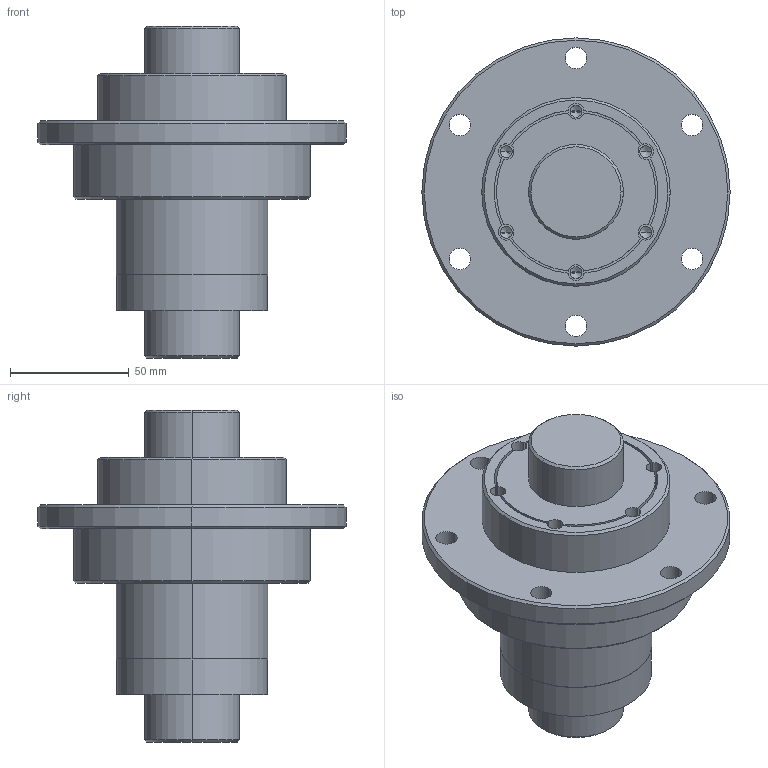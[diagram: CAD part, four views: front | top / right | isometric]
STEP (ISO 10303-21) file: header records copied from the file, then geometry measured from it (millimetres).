
FILE_DESCRIPTION (( 'STEP AP203' ), '1' );
FILE_NAME ('RLSF40.STEP', '2014-11-13T05:17:55', ( '' ), ( '' ), 'SwSTEP 2.0', 'SolidWorks 2014', '' );
FILE_SCHEMA (( 'CONFIG_CONTROL_DESIGN' ));
Length unit declared in the file: millimetre
Products named in the file (1): RLSF40
Bounding box: 130 x 130 x 140 mm (x, y, z)
Volume: 601756 mm3; surface area: 94956.1 mm2
Topology: 3 solids, 3 shells, 105 faces, 258 edges, 158 vertices
Faces by surface type: cylinder 70, cone 24, plane 11
Entity records: 3173 total; most frequent: DIRECTION 610, CARTESIAN_POINT 510, ORIENTED_EDGE 492, AXIS2_PLACEMENT_3D 258, EDGE_CURVE 246, VERTEX_POINT 158, CIRCLE 152, EDGE_LOOP 132
